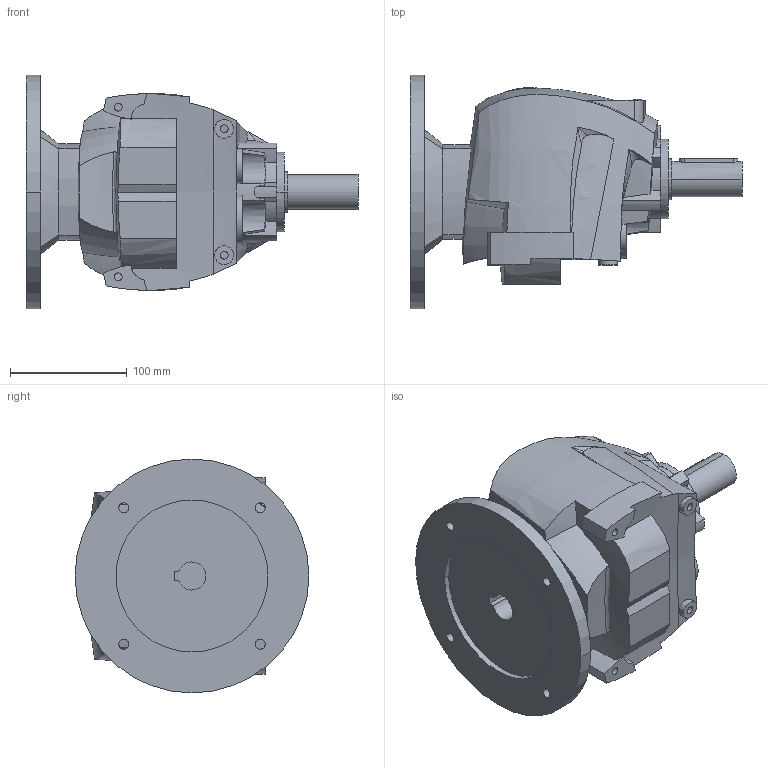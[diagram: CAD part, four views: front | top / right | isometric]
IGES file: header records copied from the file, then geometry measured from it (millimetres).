
Start section:  PTC IGES file: r25_unv_pam90_d2.igs
Global section: file name: r25_unv_pam90_d2.igs; native system: Pro/ENGINEER by Parametric Technology Corporation; preprocessor: 2008230; author: Luca; organization: Unknown; date: 20131215.122017; units: millimetre
Bounding box: 284 x 200 x 200 mm (x, y, z)
Volume: 3543499.2 mm3; surface area: 211811.9 mm2
Topology: 1 solids, 1 shells, 379 faces, 1027 edges, 685 vertices
Faces by surface type: bspline 240, revolution 139
